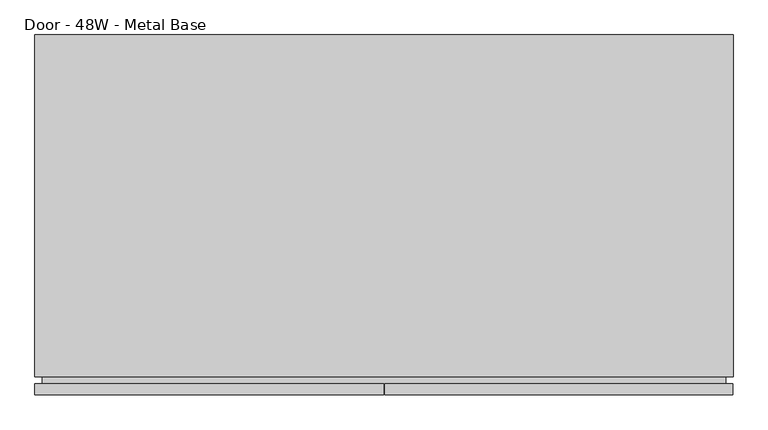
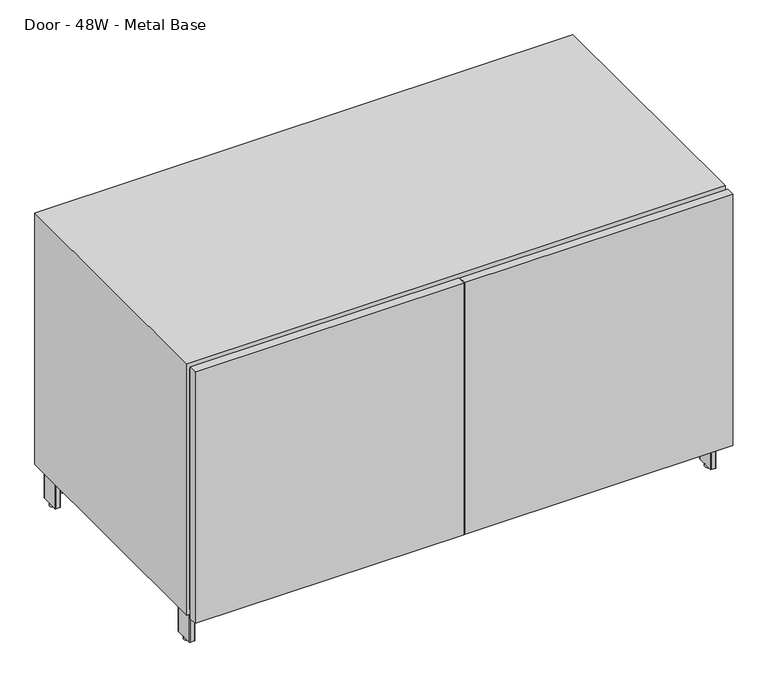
"""IFC4 building model written with IfcOpenShell, lengths in millimetres: furniture geometry, Steelcase Coalesse - Exponents - Storage - Credenza - 27H : Door - 48W - Metal Base."""

from ifc_helpers import new_model, si_unit, point, frame, frame_2d, origin, origin_with_axes, place, context, project, spatial, polyline, circle_curve, trimmed, segment, composite_curve, outline, extrude, faceted_brep, source, transform, mapped, element, save


def door_48w_metal_base_dd38ac0e(model_context):
    return source(origin(), model_context, "Body", "SolidModel", [
        faceted_brep([(6.35, 31.75, 673.1), (6.35, 31.75, 95.25), (6.35, 622.3, 95.25), (6.35, 622.3, 673.1), (1212.85, 622.3, 95.25), (1212.85, 622.3, 673.1), (1212.85, 31.75, 95.25), (1212.85, 31.75, 673.1), (0.0, 31.75, 82.55), (1219.2, 31.75, 82.55), (1219.2, 31.75, 685.8), (0.0, 31.75, 685.8), (1219.2, 628.65, 82.55), (1219.2, 628.65, 685.8), (0.0, 628.65, 82.55), (0.0, 628.65, 685.8)], [[[0, 1, 2, 3]], [[3, 2, 4, 5]], [[5, 4, 6, 7]], [[8, 9, 10, 11], [7, 6, 1, 0]], [[10, 9, 12, 13]], [[13, 12, 14, 15]], [[15, 14, 8, 11]], [[7, 0, 3, 5]], [[10, 13, 15, 11]], [[1, 6, 4, 2]], [[12, 9, 8, 14]]]),
        extrude(outline(composite_curve([segment(polyline([(1195.5506426, 615.95), (1204.722, 615.95)]), True, "CONTINUOUS"), segment(trimmed(circle_curve(frame_2d((1204.722, 614.172)), 1.778), [point((1204.722, 615.95))], [point((1206.5, 614.172))], False, "CARTESIAN"), True, "CONTINUOUS"), segment(polyline([(1206.5, 614.172), (1206.5, 572.9986)]), True, "CONTINUOUS"), segment(trimmed(circle_curve(frame_2d((1204.722, 572.9986)), 1.778), [point((1206.5, 572.9986))], [point((1204.722, 571.2206))], False, "CARTESIAN"), True, "CONTINUOUS"), segment(polyline([(1204.722, 571.2206), (1195.5948916, 571.2206)]), True, "CONTINUOUS"), segment(trimmed(circle_curve(frame_2d((1195.5948916, 573.0154916)), 1.7948916), [point((1195.5948916, 571.2206))], [point((1193.8, 573.0154916))], False, "CARTESIAN"), True, "CONTINUOUS"), segment(polyline([(1193.8, 573.0154916), (1193.8, 614.1993574)]), True, "CONTINUOUS"), segment(trimmed(circle_curve(frame_2d((1195.5506426, 614.1993574)), 1.7506426), [point((1193.8, 614.1993574))], [point((1195.5506426, 615.95))], False, "CARTESIAN"), True, "CONTINUOUS")], self_intersect=False)), frame((0.0, 0.0, 6.35), z_axis=(0.0, 0.0, 1.0), x_axis=(1.0, 0.0, 0.0)), (0.0, 0.0, 1.0), 73.4568),
        extrude(outline(composite_curve([segment(polyline([(1195.5506426, 88.9), (1204.722, 88.9)]), True, "CONTINUOUS"), segment(trimmed(circle_curve(frame_2d((1204.722, 87.122)), 1.778), [point((1204.722, 88.9))], [point((1206.5, 87.122))], False, "CARTESIAN"), True, "CONTINUOUS"), segment(polyline([(1206.5, 87.122), (1206.5, 45.9486)]), True, "CONTINUOUS"), segment(trimmed(circle_curve(frame_2d((1204.722, 45.9486)), 1.778), [point((1206.5, 45.9486))], [point((1204.722, 44.1706))], False, "CARTESIAN"), True, "CONTINUOUS"), segment(polyline([(1204.722, 44.1706), (1195.5948916, 44.1706)]), True, "CONTINUOUS"), segment(trimmed(circle_curve(frame_2d((1195.5948916, 45.9654916)), 1.7948916), [point((1195.5948916, 44.1706))], [point((1193.8, 45.9654916))], False, "CARTESIAN"), True, "CONTINUOUS"), segment(polyline([(1193.8, 45.9654916), (1193.8, 87.1493574)]), True, "CONTINUOUS"), segment(trimmed(circle_curve(frame_2d((1195.5506426, 87.1493574)), 1.7506426), [point((1193.8, 87.1493574))], [point((1195.5506426, 88.9))], False, "CARTESIAN"), True, "CONTINUOUS")], self_intersect=False)), frame((0.0, 0.0, 6.35), z_axis=(0.0, 0.0, 1.0), x_axis=(1.0, 0.0, 0.0)), (0.0, 0.0, 1.0), 73.4568),
        extrude(outline(composite_curve([segment(trimmed(circle_curve(frame_2d((1200.15, 593.5667033)), 6.35), [point((1200.15, 599.9167033))], [point((1200.15, 587.2167033))], False, "CARTESIAN"), True, "CONTINUOUS"), segment(trimmed(circle_curve(frame_2d((1200.15, 593.5667033)), 6.35), [point((1200.15, 587.2167033))], [point((1200.15, 599.9167033))], False, "CARTESIAN"), True, "CONTINUOUS")], self_intersect=False)), origin_with_axes(), (0.0, 0.0, 1.0), 6.35),
        extrude(outline(composite_curve([segment(trimmed(circle_curve(frame_2d((1200.15, 66.7867854)), 6.35), [point((1200.15, 73.1367854))], [point((1200.15, 60.4367854))], False, "CARTESIAN"), True, "CONTINUOUS"), segment(trimmed(circle_curve(frame_2d((1200.15, 66.7867854)), 6.35), [point((1200.15, 60.4367854))], [point((1200.15, 73.1367854))], False, "CARTESIAN"), True, "CONTINUOUS")], self_intersect=False)), origin_with_axes(), (0.0, 0.0, 1.0), 6.35),
        extrude(outline(polyline([(673.1, 1206.5), (673.1, 12.7), (95.25, 12.7), (95.25, 1206.5), (673.1, 1206.5)]), holes=[polyline([(666.75, 1200.15), (101.6, 1200.15), (101.6, 19.05), (666.75, 19.05), (666.75, 1200.15)])]), frame((0.0, 19.05, 0.0), z_axis=(0.0, 1.0, 0.0), x_axis=(0.0, 0.0, 1.0)), (0.0, 0.0, 1.0), 31.75),
        extrude(outline(polyline([(610.8800308, 345.280854), (1193.8, 598.591626), (1193.8, 577.8206777), (623.9741031, 330.2), (1193.8, 82.5793223), (1193.8, 61.808374), (611.177267, 314.9899805), (617.6101738, 329.7934165), (610.8800308, 345.280854)])), frame((0.0, 0.0, 34.925), z_axis=(0.0, 0.0, 1.0), x_axis=(1.0, 0.0, 0.0)), (0.0, 0.0, 1.0), 44.8818),
        extrude(outline(polyline([(1212.85, 520.7), (1111.25, 520.7), (1111.25, 622.3), (1212.85, 622.3), (1212.85, 520.7)])), frame((0.0, 0.0, 79.8068), z_axis=(0.0, 0.0, 1.0), x_axis=(1.0, 0.0, 0.0)), (0.0, 0.0, 1.0), 2.7432),
        extrude(outline(polyline([(1212.85, 139.7), (1212.85, 38.1), (1111.25, 38.1), (1111.25, 139.7), (1212.85, 139.7)])), frame((0.0, 0.0, 79.8068), z_axis=(0.0, 0.0, 1.0), x_axis=(1.0, 0.0, 0.0)), (0.0, 0.0, 1.0), 2.7432),
        extrude(outline(composite_curve([segment(trimmed(circle_curve(frame_2d((23.6493574, 614.1993574)), 1.7506426), [point((23.6493574, 615.95))], [point((25.4, 614.1993574))], False, "CARTESIAN"), True, "CONTINUOUS"), segment(polyline([(25.4, 614.1993574), (25.4, 573.0154916)]), True, "CONTINUOUS"), segment(trimmed(circle_curve(frame_2d((23.6051084, 573.0154916)), 1.7948916), [point((25.4, 573.0154916))], [point((23.6051084, 571.2206))], False, "CARTESIAN"), True, "CONTINUOUS"), segment(polyline([(23.6051084, 571.2206), (14.478, 571.2206)]), True, "CONTINUOUS"), segment(trimmed(circle_curve(frame_2d((14.478, 572.9986)), 1.778), [point((14.478, 571.2206))], [point((12.7, 572.9986))], False, "CARTESIAN"), True, "CONTINUOUS"), segment(polyline([(12.7, 572.9986), (12.7, 614.172)]), True, "CONTINUOUS"), segment(trimmed(circle_curve(frame_2d((14.478, 614.172)), 1.778), [point((12.7, 614.172))], [point((14.478, 615.95))], False, "CARTESIAN"), True, "CONTINUOUS"), segment(polyline([(14.478, 615.95), (23.6493574, 615.95)]), True, "CONTINUOUS")], self_intersect=False)), frame((0.0, 0.0, 6.35), z_axis=(0.0, 0.0, 1.0), x_axis=(1.0, 0.0, 0.0)), (0.0, 0.0, 1.0), 73.4568),
        extrude(outline(composite_curve([segment(trimmed(circle_curve(frame_2d((23.6493574, 87.1493574)), 1.7506426), [point((23.6493574, 88.9))], [point((25.4, 87.1493574))], False, "CARTESIAN"), True, "CONTINUOUS"), segment(polyline([(25.4, 87.1493574), (25.4, 45.9654916)]), True, "CONTINUOUS"), segment(trimmed(circle_curve(frame_2d((23.6051084, 45.9654916)), 1.7948916), [point((25.4, 45.9654916))], [point((23.6051084, 44.1706))], False, "CARTESIAN"), True, "CONTINUOUS"), segment(polyline([(23.6051084, 44.1706), (14.478, 44.1706)]), True, "CONTINUOUS"), segment(trimmed(circle_curve(frame_2d((14.478, 45.9486)), 1.778), [point((14.478, 44.1706))], [point((12.7, 45.9486))], False, "CARTESIAN"), True, "CONTINUOUS"), segment(polyline([(12.7, 45.9486), (12.7, 87.122)]), True, "CONTINUOUS"), segment(trimmed(circle_curve(frame_2d((14.478, 87.122)), 1.778), [point((12.7, 87.122))], [point((14.478, 88.9))], False, "CARTESIAN"), True, "CONTINUOUS"), segment(polyline([(14.478, 88.9), (23.6493574, 88.9)]), True, "CONTINUOUS")], self_intersect=False)), frame((0.0, 0.0, 6.35), z_axis=(0.0, 0.0, 1.0), x_axis=(1.0, 0.0, 0.0)), (0.0, 0.0, 1.0), 73.4568),
        extrude(outline(composite_curve([segment(trimmed(circle_curve(frame_2d((617.3743574, 347.4993574)), 1.7506426), [point((617.3743574, 349.25))], [point((619.125, 347.4993574))], False, "CARTESIAN"), True, "CONTINUOUS"), segment(polyline([(619.125, 347.4993574), (619.125, 312.9448916)]), True, "CONTINUOUS"), segment(trimmed(circle_curve(frame_2d((617.3301084, 312.9448916)), 1.7948916), [point((619.125, 312.9448916))], [point((617.3301084, 311.15))], False, "CARTESIAN"), True, "CONTINUOUS"), segment(polyline([(617.3301084, 311.15), (601.853, 311.15)]), True, "CONTINUOUS"), segment(trimmed(circle_curve(frame_2d((601.853, 312.928)), 1.778), [point((601.853, 311.15))], [point((600.075, 312.928))], False, "CARTESIAN"), True, "CONTINUOUS"), segment(polyline([(600.075, 312.928), (600.075, 347.472)]), True, "CONTINUOUS"), segment(trimmed(circle_curve(frame_2d((601.853, 347.472)), 1.778), [point((600.075, 347.472))], [point((601.853, 349.25))], False, "CARTESIAN"), True, "CONTINUOUS"), segment(polyline([(601.853, 349.25), (617.3743574, 349.25)]), True, "CONTINUOUS")], self_intersect=False)), frame((0.0, 0.0, 6.35), z_axis=(0.0, 0.0, 1.0), x_axis=(1.0, 0.0, 0.0)), (0.0, 0.0, 1.0), 73.4568),
        extrude(outline(polyline([(608.3199692, 345.280854), (601.5898262, 329.7934165), (608.022733, 314.9899805), (25.4, 61.808374), (25.4, 82.5793223), (595.2258969, 330.2), (25.4, 577.8206777), (25.4, 598.591626), (608.3199692, 345.280854)])), frame((0.0, 0.0, 34.925), z_axis=(0.0, 0.0, 1.0), x_axis=(1.0, 0.0, 0.0)), (0.0, 0.0, 1.0), 44.8818),
        extrude(outline(polyline([(1218.4126, 19.05), (1218.4126, 0.0), (610.5652, 0.0), (610.5652, 19.05), (1218.4126, 19.05)])), frame((0.0, 0.0, 82.55), z_axis=(0.0, 0.0, 1.0), x_axis=(1.0, 0.0, 0.0)), (0.0, 0.0, 1.0), 603.25),
        extrude(outline(polyline([(6.35, 520.7), (6.35, 622.3), (107.95, 622.3), (107.95, 520.7), (6.35, 520.7)])), frame((0.0, 0.0, 79.8068), z_axis=(0.0, 0.0, 1.0), x_axis=(1.0, 0.0, 0.0)), (0.0, 0.0, 1.0), 2.7432),
        extrude(outline(polyline([(6.35, 139.7), (107.95, 139.7), (107.95, 38.1), (6.35, 38.1), (6.35, 139.7)])), frame((0.0, 0.0, 79.8068), z_axis=(0.0, 0.0, 1.0), x_axis=(1.0, 0.0, 0.0)), (0.0, 0.0, 1.0), 2.7432),
        extrude(outline(polyline([(558.8, 379.0696809), (660.4, 379.0696809), (660.4, 277.4696809), (558.8, 277.4696809), (558.8, 379.0696809)])), frame((0.0, 0.0, 79.8068), z_axis=(0.0, 0.0, 1.0), x_axis=(1.0, 0.0, 0.0)), (0.0, 0.0, 1.0), 2.7432),
        extrude(outline(polyline([(608.965, 19.05), (608.965, 0.0), (0.0, 0.0), (0.0, 19.05), (608.965, 19.05)])), frame((0.0, 0.0, 82.55), z_axis=(0.0, 0.0, 1.0), x_axis=(1.0, 0.0, 0.0)), (0.0, 0.0, 1.0), 603.25),
        extrude(outline(composite_curve([segment(trimmed(circle_curve(frame_2d((19.05, 593.5667033)), 6.35), [point((12.7, 593.5667033))], [point((25.4, 593.5667033))], False, "CARTESIAN"), True, "CONTINUOUS"), segment(trimmed(circle_curve(frame_2d((19.05, 593.5667033)), 6.35), [point((25.4, 593.5667033))], [point((12.7, 593.5667033))], False, "CARTESIAN"), True, "CONTINUOUS")], self_intersect=False)), origin_with_axes(), (0.0, 0.0, 1.0), 6.35),
        extrude(outline(composite_curve([segment(trimmed(circle_curve(frame_2d((19.05, 66.7867854)), 6.35), [point((12.7, 66.7867854))], [point((25.4, 66.7867854))], False, "CARTESIAN"), True, "CONTINUOUS"), segment(trimmed(circle_curve(frame_2d((19.05, 66.7867854)), 6.35), [point((25.4, 66.7867854))], [point((12.7, 66.7867854))], False, "CARTESIAN"), True, "CONTINUOUS")], self_intersect=False)), origin_with_axes(), (0.0, 0.0, 1.0), 6.35),
        extrude(outline(composite_curve([segment(trimmed(circle_curve(frame_2d((609.7749308, 330.5590189)), 6.35), [point((603.4249308, 330.5590189))], [point((616.1249308, 330.5590189))], False, "CARTESIAN"), True, "CONTINUOUS"), segment(trimmed(circle_curve(frame_2d((609.7749308, 330.5590189)), 6.35), [point((616.1249308, 330.5590189))], [point((603.4249308, 330.5590189))], False, "CARTESIAN"), True, "CONTINUOUS")], self_intersect=False)), origin_with_axes(), (0.0, 0.0, 1.0), 6.35),
        extrude(outline(polyline([(0.0, -19.05), (0.0, 0.0), (31.75, 0.0), (31.75, -19.05), (0.0, -19.05)])), frame((590.55, 19.05, 101.6), z_axis=(3.3608671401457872e-12, 0.0, 1.0), x_axis=(0.0, 1.0, 0.0)), (0.0, 0.0, 1.0), 565.15),
        extrude(outline(polyline([(590.55, 609.6), (609.6, 609.6), (609.6, 50.8), (590.55, 50.8), (590.55, 609.6)])), frame((0.0, 0.0, 95.25), z_axis=(0.0, 0.0, 1.0), x_axis=(1.0, 0.0, 0.0)), (0.0, 0.0, 1.0), 577.85),
    ])


if __name__ == "__main__":
    model = new_model("IFC4")
    model_context = context("Model", 3, world=origin())
    ifc_project = project(units=[si_unit("LENGTHUNIT", "METRE", prefix="MILLI")], contexts=[model_context])
    site = spatial("IfcSite", under=ifc_project)
    building = spatial("IfcBuilding", under=site)
    placement = place(None, origin())
    door_48w_metal_base_shape = door_48w_metal_base_dd38ac0e(model_context)
    element("IfcFurniture", 1, ObjectType="Steelcase Coalesse - Exponents - Storage - Credenza - 27H : Door - 48W - Metal Base", at=placement, inside=building, context=model_context, shape_type="MappedRepresentation", body=[
        mapped(door_48w_metal_base_shape, transform((0.0, 0.0, 0.0), x_axis=(1.0, 0.0, 0.0), y_axis=(0.0, 1.0, 0.0), z_axis=(0.0, 0.0, 1.0))),
    ])
    save(model, "model.ifc")
